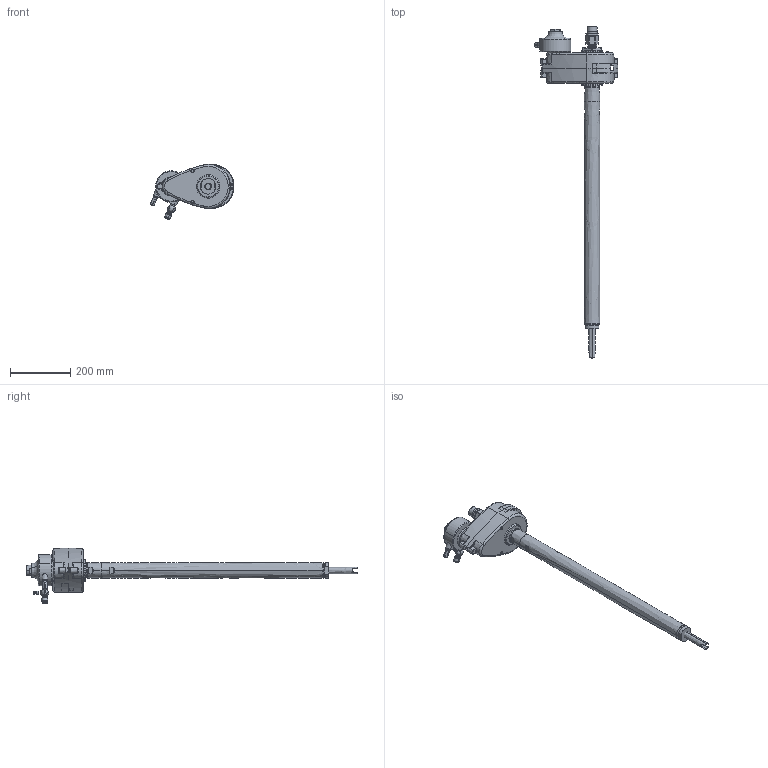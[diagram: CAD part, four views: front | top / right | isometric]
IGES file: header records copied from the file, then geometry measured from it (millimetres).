
Start section:  PTC IGES file: 240209-en-y.igs
Global section: file name: 240209-en-y.igs; native system: Creo Parametric by PTC Inc.; preprocessor: 2021072; author: qtmwp1; organization: Unknown; date: 20220214.110918; units: inch
Bounding box: 277.5 x 1098.55 x 182.4 mm (x, y, z)
Surface area: 479152.8 mm2 (no closed solid volume)
Topology: 0 solids, 0 shells, 356 faces, 1694 edges, 1694 vertices
Faces by surface type: revolution 221, bspline 135
